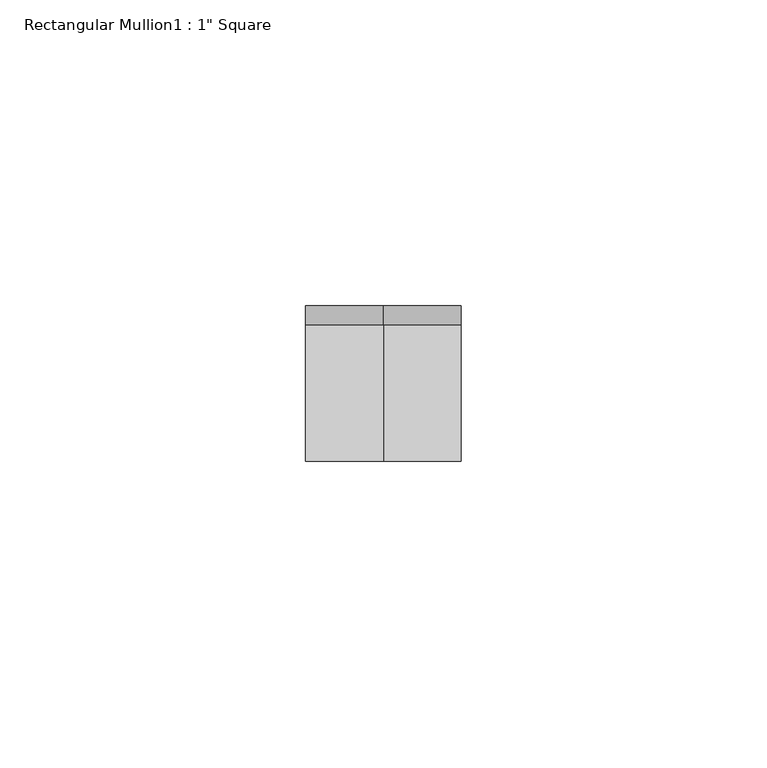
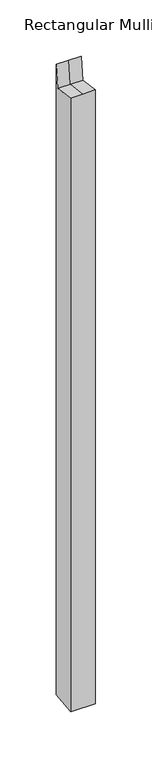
"""IFC4 building model written with IfcOpenShell, lengths in millimetres: member geometry."""

from ifc_helpers import new_model, si_unit, origin, place, context, project, spatial, faceted_brep, source, transform, mapped, element, save


def member_193757dc(model_context):
    return source(origin(), model_context, "Body", "Brep", [
        faceted_brep([(-12.7, -19.05, 26.6077363), (0.0, -19.05, 26.6077363), (12.7, -19.05, 26.6077363), (12.7, -19.05, -657.0654859), (-12.7, -19.05, -657.0654859), (-12.7, -44.45, 5.4538412), (-12.7, -22.1052135, 2.6091677), (-12.7, -44.45, -660.299113), (12.7, -44.45, 5.4538412), (0.0, -44.45, 5.4538412), (12.7, -44.45, -660.299113), (12.7, -22.1052135, 2.6091677), (0.0, -22.1052135, 2.6091677)], [[[0, 1, 2, 3, 4]], [[5, 6, 0, 4, 7]], [[8, 9, 5, 7, 10]], [[2, 11, 8, 10, 3]], [[2, 1, 12, 11]], [[1, 0, 6, 12]], [[6, 5, 9, 12]], [[9, 8, 11, 12]], [[3, 10, 7, 4]]]),
    ])


if __name__ == "__main__":
    model = new_model("IFC4")
    model_context = context("Model", 3, world=origin())
    ifc_project = project(units=[si_unit("LENGTHUNIT", "METRE", prefix="MILLI")], contexts=[model_context])
    site = spatial("IfcSite", under=ifc_project)
    building = spatial("IfcBuilding", under=site)
    placement = place(None, origin())
    member_shape = member_193757dc(model_context)
    element("IfcMember", 1, ObjectType="Rectangular Mullion1 : 1\" Square", at=placement, inside=building, context=model_context, shape_type="MappedRepresentation", body=[
        mapped(member_shape, transform((0.0, 0.0, 0.0), x_axis=(1.0, 0.0, 0.0), y_axis=(0.0, 1.0, 0.0), z_axis=(0.0, 0.0, 1.0))),
    ])
    save(model, "model.ifc")
